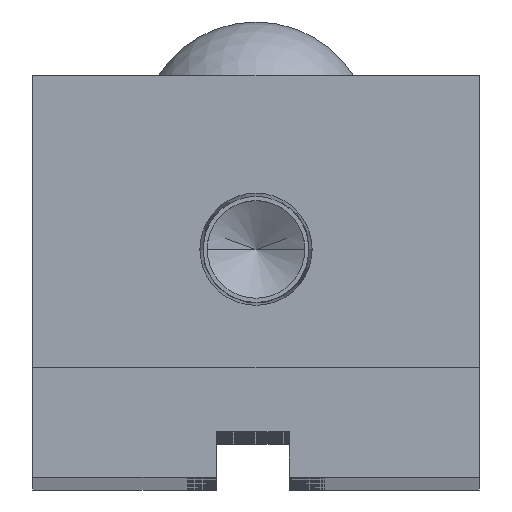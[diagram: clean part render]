
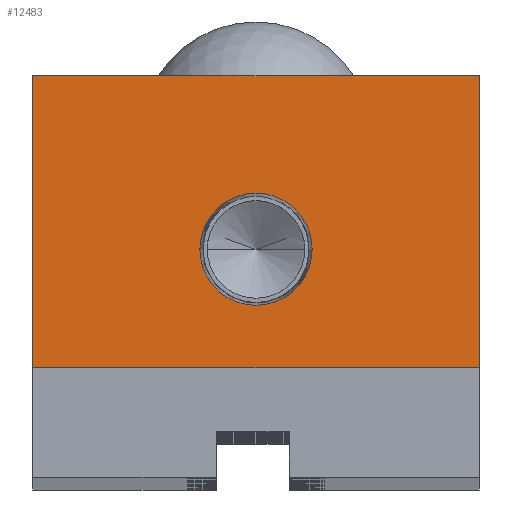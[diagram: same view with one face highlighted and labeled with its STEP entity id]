
A CAD part, top view. The second image highlights one B-rep face of the part: STEP entity #12483.
In plain terms, the highlighted planar face has unit normal (0, 0, 1).
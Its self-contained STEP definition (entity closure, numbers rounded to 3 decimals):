
#740 = DIRECTION ( 'NONE',  ( 1., 0., 0. ) ) ;
#1297 = LINE ( 'NONE', #2376, #15967 ) ;
#1522 = VERTEX_POINT ( 'NONE', #10138 ) ;
#1540 = CARTESIAN_POINT ( 'NONE',  ( -24.5, 32., 0. ) ) ;
#1593 = CARTESIAN_POINT ( 'NONE',  ( 0., 13., 0. ) ) ;
#1608 = CARTESIAN_POINT ( 'NONE',  ( 24.5, 32., 0. ) ) ;
#2307 = CARTESIAN_POINT ( 'NONE',  ( 24.5, 32., 0. ) ) ;
#2376 = CARTESIAN_POINT ( 'NONE',  ( -24.5, 0., 0. ) ) ;
#3052 = DIRECTION ( 'NONE',  ( 1., 0., 0. ) ) ;
#3242 = VERTEX_POINT ( 'NONE', #14827 ) ;
#3253 = CARTESIAN_POINT ( 'NONE',  ( 0., 0., 0. ) ) ;
#3363 = EDGE_CURVE ( 'NONE', #3242, #1522, #12965, .T. ) ;
#3566 = CARTESIAN_POINT ( 'NONE',  ( -24.5, 32., 0. ) ) ;
#5058 = AXIS2_PLACEMENT_3D ( 'NONE', #3253, #16004, #7524 ) ;
#5272 = ORIENTED_EDGE ( 'NONE', *, *, #6328, .T. ) ;
#5427 = VECTOR ( 'NONE', #16543, 1000. ) ;
#6328 = EDGE_CURVE ( 'NONE', #17927, #3242, #1297, .T. ) ;
#6344 = ORIENTED_EDGE ( 'NONE', *, *, #15844, .T. ) ;
#6664 = CARTESIAN_POINT ( 'NONE',  ( 24.5, 0., 0. ) ) ;
#7524 = DIRECTION ( 'NONE',  ( -1., 0., 0. ) ) ;
#7774 = CIRCLE ( 'NONE', #14928, 6.154 ) ;
#8399 = FACE_BOUND ( 'NONE', #16903, .T. ) ;
#9005 = AXIS2_PLACEMENT_3D ( 'NONE', #17753, #9306, #740 ) ;
#9306 = DIRECTION ( 'NONE',  ( 0., 0., 1. ) ) ;
#9419 = EDGE_CURVE ( 'NONE', #15906, #16263, #7774, .T. ) ;
#9679 = VECTOR ( 'NONE', #10096, 1000. ) ;
#10096 = DIRECTION ( 'NONE',  ( -1., 0., 0. ) ) ;
#10138 = CARTESIAN_POINT ( 'NONE',  ( 24.5, 0., 0. ) ) ;
#10151 = DIRECTION ( 'NONE',  ( 0., 1., 0. ) ) ;
#10708 = ORIENTED_EDGE ( 'NONE', *, *, #3363, .T. ) ;
#11014 = LINE ( 'NONE', #1608, #14758 ) ;
#11084 = EDGE_LOOP ( 'NONE', ( #5272, #10708, #14286, #6344 ) ) ;
#11123 = CARTESIAN_POINT ( 'NONE',  ( 6.154, 13., 0. ) ) ;
#11547 = DIRECTION ( 'NONE',  ( 0., 0., 1. ) ) ;
#11637 = CARTESIAN_POINT ( 'NONE',  ( -6.154, 13., 0. ) ) ;
#12185 = FACE_OUTER_BOUND ( 'NONE', #11084, .T. ) ;
#12483 = ADVANCED_FACE ( 'NONE', ( #8399, #12185 ), #13185, .F. ) ;
#12668 = VERTEX_POINT ( 'NONE', #2307 ) ;
#12965 = LINE ( 'NONE', #6664, #5427 ) ;
#13185 = PLANE ( 'NONE',  #5058 ) ;
#13516 = EDGE_CURVE ( 'NONE', #16263, #15906, #17717, .T. ) ;
#14286 = ORIENTED_EDGE ( 'NONE', *, *, #15756, .T. ) ;
#14660 = ORIENTED_EDGE ( 'NONE', *, *, #13516, .F. ) ;
#14758 = VECTOR ( 'NONE', #10151, 1000. ) ;
#14827 = CARTESIAN_POINT ( 'NONE',  ( -24.5, 0., 0. ) ) ;
#14928 = AXIS2_PLACEMENT_3D ( 'NONE', #1593, #11547, #3052 ) ;
#15583 = ORIENTED_EDGE ( 'NONE', *, *, #9419, .F. ) ;
#15756 = EDGE_CURVE ( 'NONE', #1522, #12668, #11014, .T. ) ;
#15844 = EDGE_CURVE ( 'NONE', #12668, #17927, #18076, .T. ) ;
#15906 = VERTEX_POINT ( 'NONE', #11637 ) ;
#15967 = VECTOR ( 'NONE', #17981, 1000. ) ;
#16004 = DIRECTION ( 'NONE',  ( 0., 0., -1. ) ) ;
#16263 = VERTEX_POINT ( 'NONE', #11123 ) ;
#16543 = DIRECTION ( 'NONE',  ( 1., 0., 0. ) ) ;
#16903 = EDGE_LOOP ( 'NONE', ( #14660, #15583 ) ) ;
#17717 = CIRCLE ( 'NONE', #9005, 6.154 ) ;
#17753 = CARTESIAN_POINT ( 'NONE',  ( 0., 13., 0. ) ) ;
#17927 = VERTEX_POINT ( 'NONE', #3566 ) ;
#17981 = DIRECTION ( 'NONE',  ( 0., -1., 0. ) ) ;
#18076 = LINE ( 'NONE', #1540, #9679 ) ;
